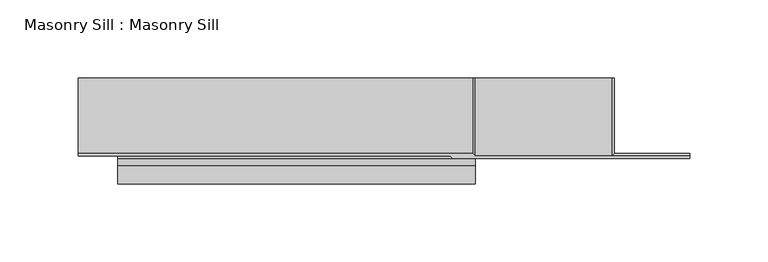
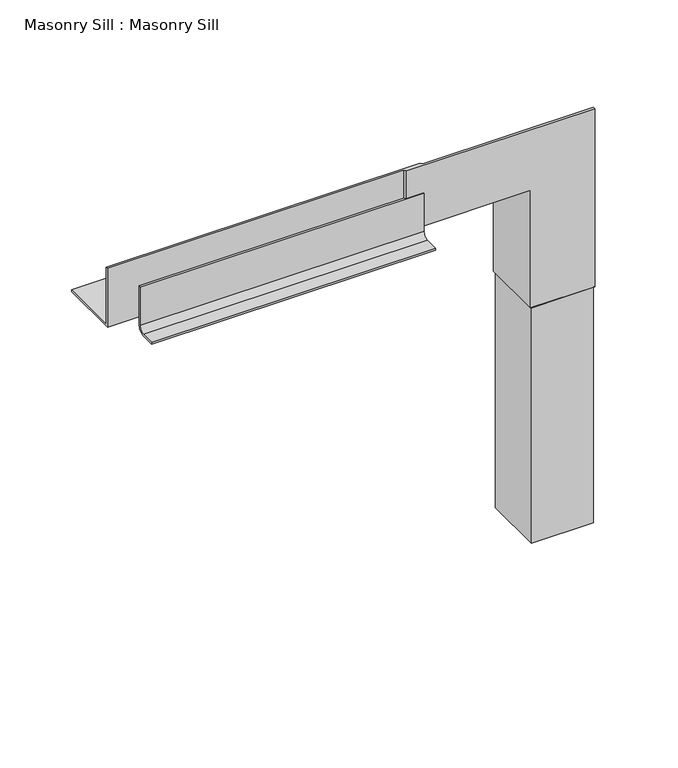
"""IFC4 building model written with IfcOpenShell, lengths in millimetres: proxy geometry, Masonry Sill : Masonry Sill."""

from ifc_helpers import new_model, si_unit, point, frame, frame_2d, origin, place, context, project, spatial, polyline, circle_curve, trimmed, segment, composite_curve, outline, extrude, faceted_brep, source, transform, mapped, element, save


def masonry_sill_masonry_sill_15b803c6(model_context):
    return source(origin(), model_context, "Body", "SolidModel", [
        extrude(outline(composite_curve([segment(polyline([(630.8066297, 296.8525191), (630.8066297, 329.4048158), (632.3941297, 329.4048158), (632.3941297, 296.8525191)]), True, "CONTINUOUS"), segment(trimmed(circle_curve(frame_2d((626.0441297, 296.8525191)), 6.35), [point((632.3941297, 296.8525191))], [point((626.0441297, 290.5025191))], False, "CARTESIAN"), True, "CONTINUOUS"), segment(polyline([(626.0441297, 290.5025191), (614.690453, 290.5025191), (614.690453, 292.0900191), (626.0441297, 292.0900191)]), True, "CONTINUOUS"), segment(trimmed(circle_curve(frame_2d((626.0441297, 296.8525191)), 4.7625), [point((626.0441297, 292.0900191))], [point((630.8066297, 296.8525191))], True, "CARTESIAN"), True, "CONTINUOUS")], self_intersect=False)), frame((26539.9726773, 0.0, 0.0), z_axis=(1.0, 0.0, 0.0), x_axis=(0.0, 1.0, 0.0)), (0.0, 0.0, 1.0), 228.6),
        faceted_brep([(26514.5726773, 632.3941297, 303.2125), (26514.5726773, 632.3941297, 353.2173158), (26514.5726773, 633.9816297, 353.2173158), (26514.5726773, 633.9816297, 304.8), (26514.5726773, 682.3989454, 304.8), (26514.5726773, 682.3989454, 303.2125), (26752.6976773, 632.3941297, 303.2125), (26752.6976773, 632.3941297, 353.2173158), (26754.2851773, 630.8066297, 353.2173158), (26905.8899931, 630.8066297, 353.2173158), (26905.8899931, 632.3941297, 353.2173158), (26768.5726773, 632.3941297, 353.2173158), (26766.9851773, 633.9816297, 353.2173158), (26766.9851773, 633.9816297, 304.8), (26766.9851773, 682.3989454, 304.8), (26768.5726773, 682.3989454, 303.2125), (26855.8851773, 682.3989454, 303.2125), (26855.8851773, 682.3989454, 215.9), (26857.4726773, 682.3989454, 214.3125), (26857.4726773, 682.3989454, 0.0), (26855.8851773, 682.3989454, 0.0), (26855.8851773, 682.3989454, 200.025), (26854.2976773, 682.3989454, 201.6125), (26854.2976773, 682.3989454, 301.625), (26754.2851773, 682.3989454, 301.625), (26752.6976773, 682.3989454, 303.2125), (26855.8851773, 632.3941297, 303.2125), (26768.5726773, 632.3941297, 303.2125), (26905.8899931, 632.3941297, 215.9), (26855.8851773, 632.3941297, 215.9), (26854.2976773, 630.8066297, 301.625), (26754.2851773, 630.8066297, 301.625), (26854.2976773, 630.8066297, 201.6125), (26905.8899931, 630.8066297, 201.6125), (26905.8899931, 632.3941297, 200.025), (26905.8899931, 632.3941297, 0.0), (26905.8899931, 633.9816297, 0.0), (26905.8899931, 633.9816297, 214.3125), (26855.8851773, 632.3941297, 0.0), (26857.4726773, 633.9816297, 0.0), (26855.8851773, 632.3941297, 200.025), (26857.4726773, 633.9816297, 214.3125)], [[[0, 1, 2, 3, 4, 5]], [[1, 0, 6, 7]], [[2, 1, 7, 8, 9, 10, 11, 12]], [[3, 2, 12, 13]], [[4, 3, 13, 14]], [[5, 4, 14, 15, 16, 17, 18, 19, 20, 21, 22, 23, 24, 25]], [[0, 5, 25, 6]], [[26, 27, 11, 10, 28, 29]], [[26, 16, 15, 27]], [[23, 30, 31, 24]], [[9, 8, 31, 30, 32, 33]], [[10, 9, 33, 34, 35, 36, 37, 28]], [[16, 26, 29, 17]], [[30, 23, 22, 32]], [[38, 20, 19, 39, 36, 35]], [[38, 35, 34, 40]], [[36, 39, 41, 37]], [[39, 19, 18, 41]], [[20, 38, 40, 21]], [[31, 6, 25, 24]], [[6, 31, 8, 7]], [[13, 27, 15, 14]], [[27, 13, 12, 11]], [[40, 32, 22, 21]], [[32, 40, 34, 33]], [[29, 41, 18, 17]], [[41, 29, 28, 37]]]),
    ])


if __name__ == "__main__":
    model = new_model("IFC4")
    model_context = context("Model", 3, world=origin())
    ifc_project = project(units=[si_unit("LENGTHUNIT", "METRE", prefix="MILLI")], contexts=[model_context])
    site = spatial("IfcSite", under=ifc_project)
    building = spatial("IfcBuilding", under=site)
    placement = place(None, origin())
    masonry_sill_masonry_sill_shape = masonry_sill_masonry_sill_15b803c6(model_context)
    element("IfcBuildingElementProxy", 1, Name="Masonry Sill : Masonry Sill", ObjectType="Masonry Sill : Masonry Sill", at=placement, inside=building, context=model_context, shape_type="MappedRepresentation", body=[
        mapped(masonry_sill_masonry_sill_shape, transform((0.0, 0.0, 0.0), x_axis=(1.0, 0.0, 0.0), y_axis=(0.0, 1.0, 0.0), z_axis=(0.0, 0.0, 1.0))),
    ])
    save(model, "model.ifc")
